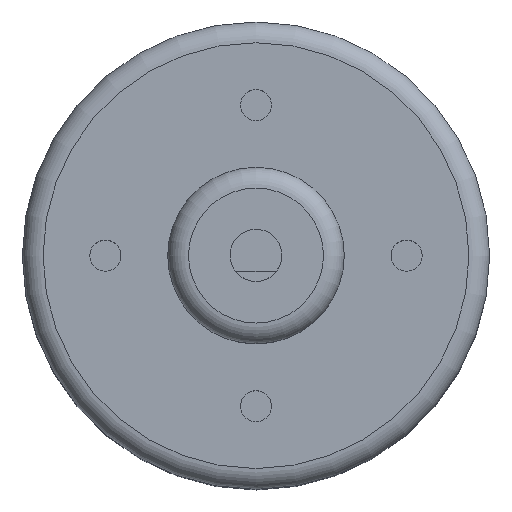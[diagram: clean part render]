
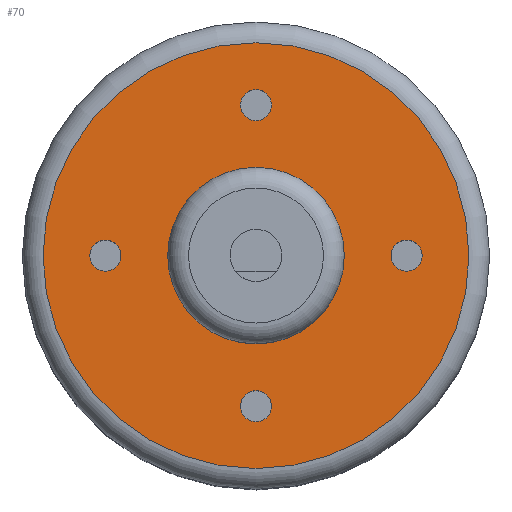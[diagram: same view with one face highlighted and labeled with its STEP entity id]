
A CAD part, top view. The second image highlights one B-rep face of the part: STEP entity #70.
In plain terms, the highlighted planar face has unit normal (0, 0, 1).
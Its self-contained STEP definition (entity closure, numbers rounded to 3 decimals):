
#70=ADVANCED_FACE('',(#237,#239,#241,#243,#245,#247),#249,.T.);
#237=FACE_BOUND('',#238,.T.);
#238=EDGE_LOOP('',(#329));
#239=FACE_BOUND('',#240,.T.);
#240=EDGE_LOOP('',(#330));
#241=FACE_BOUND('',#242,.T.);
#242=EDGE_LOOP('',(#331));
#243=FACE_BOUND('',#244,.T.);
#244=EDGE_LOOP('',(#332));
#245=FACE_BOUND('',#246,.T.);
#246=EDGE_LOOP('',(#333));
#247=FACE_BOUND('',#248,.T.);
#248=EDGE_LOOP('',(#334));
#249=PLANE('',#250);
#250=AXIS2_PLACEMENT_3D('',#251,#252,#253);
#251=CARTESIAN_POINT('',(0.,0.,38.));
#252=DIRECTION('',(0.,0.,1.));
#253=DIRECTION('',(1.,0.,0.));
#329=ORIENTED_EDGE('',*,*,#370,.F.);
#330=ORIENTED_EDGE('',*,*,#352,.T.);
#331=ORIENTED_EDGE('',*,*,#354,.T.);
#332=ORIENTED_EDGE('',*,*,#356,.T.);
#333=ORIENTED_EDGE('',*,*,#358,.T.);
#334=ORIENTED_EDGE('',*,*,#371,.T.);
#352=EDGE_CURVE('',#387,#387,#388,.T.);
#354=EDGE_CURVE('',#391,#391,#392,.T.);
#356=EDGE_CURVE('',#395,#395,#396,.T.);
#358=EDGE_CURVE('',#399,#399,#400,.T.);
#370=EDGE_CURVE('',#421,#421,#422,.T.);
#371=EDGE_CURVE('',#423,#423,#424,.T.);
#387=VERTEX_POINT('',#559);
#388=CIRCLE('',#560,1.5);
#391=VERTEX_POINT('',#569);
#392=CIRCLE('',#570,1.5);
#395=VERTEX_POINT('',#579);
#396=CIRCLE('',#580,1.5);
#399=VERTEX_POINT('',#589);
#400=CIRCLE('',#590,1.5);
#421=VERTEX_POINT('',#643);
#422=CIRCLE('',#644,20.5);
#423=VERTEX_POINT('',#648);
#424=CIRCLE('',#649,8.5);
#559=CARTESIAN_POINT('',(13.,0.,38.));
#560=AXIS2_PLACEMENT_3D('',#561,#562,#563);
#561=CARTESIAN_POINT('',(14.5,0.,38.));
#562=DIRECTION('',(0.,0.,-1.));
#563=DIRECTION('',(-1.,0.,0.));
#569=CARTESIAN_POINT('',(-1.5,14.5,38.));
#570=AXIS2_PLACEMENT_3D('',#571,#572,#573);
#571=CARTESIAN_POINT('',(0.,14.5,38.));
#572=DIRECTION('',(0.,0.,-1.));
#573=DIRECTION('',(-1.,0.,0.));
#579=CARTESIAN_POINT('',(-1.5,-14.5,38.));
#580=AXIS2_PLACEMENT_3D('',#581,#582,#583);
#581=CARTESIAN_POINT('',(0.,-14.5,38.));
#582=DIRECTION('',(0.,0.,-1.));
#583=DIRECTION('',(-1.,0.,0.));
#589=CARTESIAN_POINT('',(-16.,0.,38.));
#590=AXIS2_PLACEMENT_3D('',#591,#592,#593);
#591=CARTESIAN_POINT('',(-14.5,0.,38.));
#592=DIRECTION('',(0.,0.,-1.));
#593=DIRECTION('',(-1.,0.,0.));
#643=CARTESIAN_POINT('',(-20.5,0.,38.));
#644=AXIS2_PLACEMENT_3D('',#645,#646,#647);
#645=CARTESIAN_POINT('',(0.,0.,38.));
#646=DIRECTION('',(0.,0.,-1.));
#647=DIRECTION('',(-1.,0.,0.));
#648=CARTESIAN_POINT('',(8.5,0.,38.));
#649=AXIS2_PLACEMENT_3D('',#650,#651,#652);
#650=CARTESIAN_POINT('',(0.,0.,38.));
#651=DIRECTION('',(0.,0.,-1.));
#652=DIRECTION('',(1.,0.,0.));
